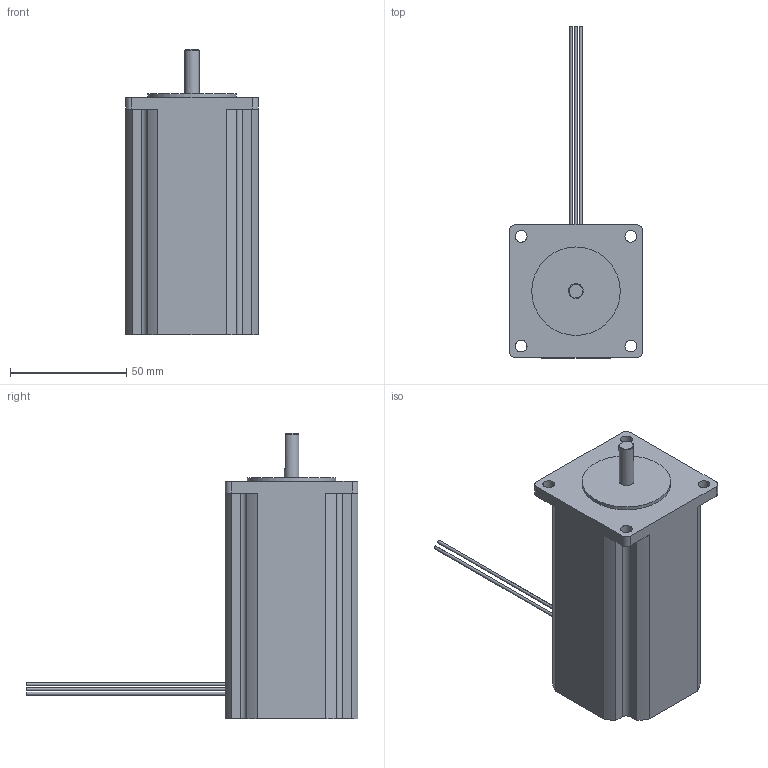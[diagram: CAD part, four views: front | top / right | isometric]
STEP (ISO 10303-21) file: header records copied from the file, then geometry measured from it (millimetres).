
FILE_DESCRIPTION((''),'2;1');
FILE_NAME('C:\Inventor Standard Motors\Eng vault\Workspace\rich''s work space\updated web dwgs\stp\5718\5718c sngl.stp','2009-05-26T20:27:07',('rbadgerow'),(''),'Autodesk Inventor 2009','Autodesk Inventor 2009','');
FILE_SCHEMA(('AUTOMOTIVE_DESIGN { 1 0 10303 214 1 1 1 1 }'));
Length unit declared in the file: inch
Products named in the file (1): 5718c sngl
Bounding box: 57.15 x 142.88 x 122.68 mm (x, y, z)
Volume: 298020.4 mm3; surface area: 29921.7 mm2
Topology: 1 solids, 1 shells, 53 faces, 139 edges, 94 vertices
Faces by surface type: cylinder 26, plane 26, cone 1
Full cylindrical faces by diameter (mm): 1.27 x4, 5.08 x4, 6.35 x1, 38.1 x1
Entity records: 1680 total; most frequent: DIRECTION 288, CARTESIAN_POINT 275, ORIENTED_EDGE 252, EDGE_CURVE 126, AXIS2_PLACEMENT_3D 110, VERTEX_POINT 91, EDGE_LOOP 77, VECTOR 68
